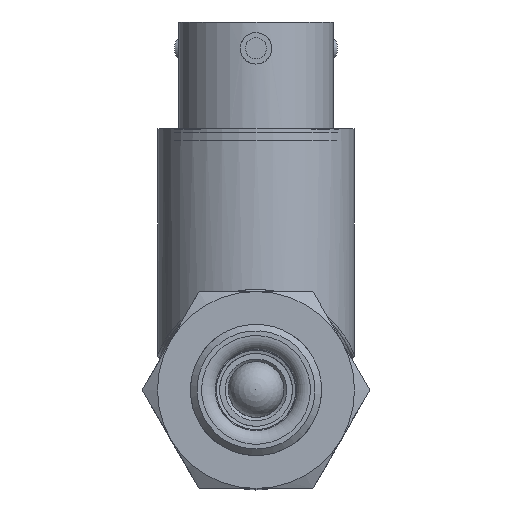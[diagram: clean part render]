
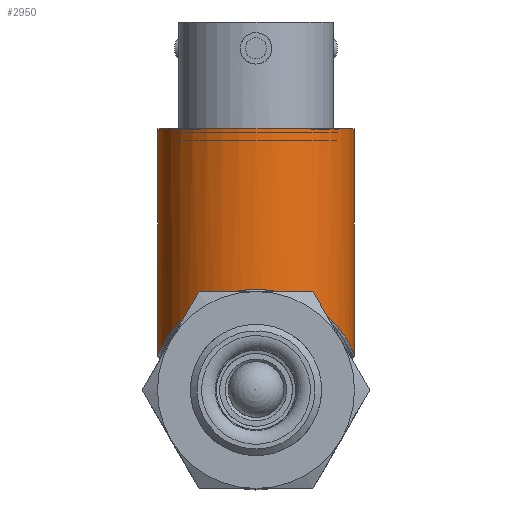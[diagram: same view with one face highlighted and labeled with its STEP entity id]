
A CAD part, top view. The second image highlights one B-rep face of the part: STEP entity #2950.
In plain terms, the highlighted cylindrical face has radius 9.525 mm (diameter 19.05 mm), a full revolution.
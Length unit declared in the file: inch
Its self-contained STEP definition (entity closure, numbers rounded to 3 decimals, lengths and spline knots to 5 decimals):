
#64=B_SPLINE_CURVE_WITH_KNOTS('',3,(#5317,#5318,#5319,#5320,#5321,#5322,
#5323,#5324,#5325,#5326,#5327,#5328,#5329,#5330,#5331,#5332,#5333,#5334,
#5335,#5336,#5337,#5338,#5339,#5340,#5341,#5342,#5343,#5344,#5345,#5346,
#5347),.UNSPECIFIED.,.F.,.F.,(4,1,1,1,1,1,1,1,1,1,1,1,1,1,1,1,1,1,1,1,1,
1,1,1,1,1,1,1,4),(-9.63701,-9.40756,-9.17811,
-8.7192,-8.41326,-8.26029,-8.10733,
-8.03084,-7.95436,-7.80139,-7.49545,
-7.18952,-6.88358,-6.57764,-6.27171,
-5.96577,-5.65983,-5.35389,-5.04796,-4.89499,
-4.81851,-4.74202,-4.58905,-4.43608,
-4.3596,-4.13015,-3.67124,-3.44179,
-3.21234),.UNSPECIFIED.);
#322=FACE_OUTER_BOUND('',#538,.T.);
#538=EDGE_LOOP('',(#2004,#2005,#2006,#2007));
#764=LINE('',#5397,#900);
#900=VECTOR('',#3866,0.375);
#1054=CIRCLE('',#3357,0.375);
#1262=VERTEX_POINT('',#5283);
#1266=VERTEX_POINT('',#5396);
#1543=EDGE_CURVE('',#1262,#1262,#64,.T.);
#1546=EDGE_CURVE('',#1266,#1262,#764,.T.);
#1547=EDGE_CURVE('',#1266,#1266,#1054,.T.);
#2004=ORIENTED_EDGE('',*,*,#1546,.F.);
#2005=ORIENTED_EDGE('',*,*,#1547,.F.);
#2006=ORIENTED_EDGE('',*,*,#1546,.T.);
#2007=ORIENTED_EDGE('',*,*,#1543,.F.);
#2660=CYLINDRICAL_SURFACE('',#3356,0.375);
#2950=ADVANCED_FACE('',(#322),#2660,.T.);
#3356=AXIS2_PLACEMENT_3D('',#5395,#3864,#3865);
#3357=AXIS2_PLACEMENT_3D('',#5398,#3867,#3868);
#3864=DIRECTION('center_axis',(0.,1.,0.));
#3865=DIRECTION('ref_axis',(0.,0.,1.));
#3866=DIRECTION('',(0.,-1.,0.));
#3867=DIRECTION('center_axis',(0.,1.,0.));
#3868=DIRECTION('ref_axis',(0.,0.,1.));
#5283=CARTESIAN_POINT('',(0.,0.3875,-0.885));
#5317=CARTESIAN_POINT('Ctrl Pts',(0.,0.3875,
-0.885));
#5318=CARTESIAN_POINT('Ctrl Pts',(0.03115,0.3875,
-0.885));
#5319=CARTESIAN_POINT('Ctrl Pts',(0.09334,0.38035,-0.87711));
#5320=CARTESIAN_POINT('Ctrl Pts',(0.20461,0.34113,-0.83344));
#5321=CARTESIAN_POINT('Ctrl Pts',(0.29322,0.27237,-0.75527));
#5322=CARTESIAN_POINT('Ctrl Pts',(0.3437,0.20219,-0.66673));
#5323=CARTESIAN_POINT('Ctrl Pts',(0.36561,0.15994,-0.59934));
#5324=CARTESIAN_POINT('Ctrl Pts',(0.37367,0.14038,-0.55154));
#5325=CARTESIAN_POINT('Ctrl Pts',(0.37544,0.13579,-0.51));
#5326=CARTESIAN_POINT('Ctrl Pts',(0.37368,0.14033,-0.46838));
#5327=CARTESIAN_POINT('Ctrl Pts',(0.36229,0.16812,-0.40173));
#5328=CARTESIAN_POINT('Ctrl Pts',(0.32972,0.22602,-0.32222));
#5329=CARTESIAN_POINT('Ctrl Pts',(0.26718,0.29409,-0.23979));
#5330=CARTESIAN_POINT('Ctrl Pts',(0.17866,0.35267,-0.1737));
#5331=CARTESIAN_POINT('Ctrl Pts',(0.06404,0.38893,-0.13338));
#5332=CARTESIAN_POINT('Ctrl Pts',(-0.06404,0.38896,
-0.13336));
#5333=CARTESIAN_POINT('Ctrl Pts',(-0.1787,0.35265,-0.17371));
#5334=CARTESIAN_POINT('Ctrl Pts',(-0.26715,0.29415,-0.23979));
#5335=CARTESIAN_POINT('Ctrl Pts',(-0.32975,0.22598,
-0.32225));
#5336=CARTESIAN_POINT('Ctrl Pts',(-0.36229,0.1681,
-0.40173));
#5337=CARTESIAN_POINT('Ctrl Pts',(-0.37368,0.14033,
-0.46842));
#5338=CARTESIAN_POINT('Ctrl Pts',(-0.37544,0.1358,
-0.51003));
#5339=CARTESIAN_POINT('Ctrl Pts',(-0.37367,0.14038,
-0.55157));
#5340=CARTESIAN_POINT('Ctrl Pts',(-0.36558,0.15999,-0.59935));
#5341=CARTESIAN_POINT('Ctrl Pts',(-0.35196,0.18626,-0.64144));
#5342=CARTESIAN_POINT('Ctrl Pts',(-0.33101,0.21986,-0.68892));
#5343=CARTESIAN_POINT('Ctrl Pts',(-0.28645,0.27754,-0.76122));
#5344=CARTESIAN_POINT('Ctrl Pts',(-0.20458,0.34119,
-0.83347));
#5345=CARTESIAN_POINT('Ctrl Pts',(-0.09335,0.38033,
-0.87711));
#5346=CARTESIAN_POINT('Ctrl Pts',(-0.03115,0.3875,
-0.885));
#5347=CARTESIAN_POINT('Ctrl Pts',(0.,0.3875,
-0.885));
#5395=CARTESIAN_POINT('Origin',(0.,0.47,
-0.51));
#5396=CARTESIAN_POINT('',(0.,1.,-0.885));
#5397=CARTESIAN_POINT('',(0.,0.47,-0.885));
#5398=CARTESIAN_POINT('Origin',(0.,1.,
-0.51));
